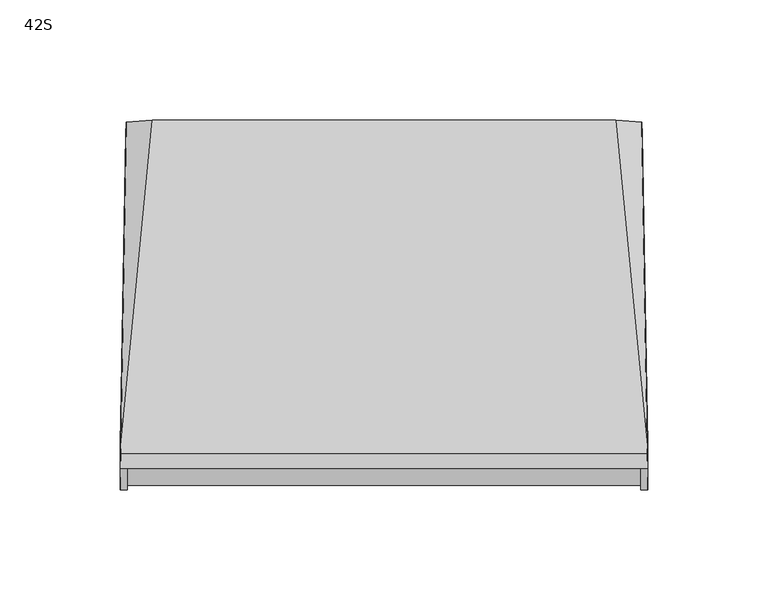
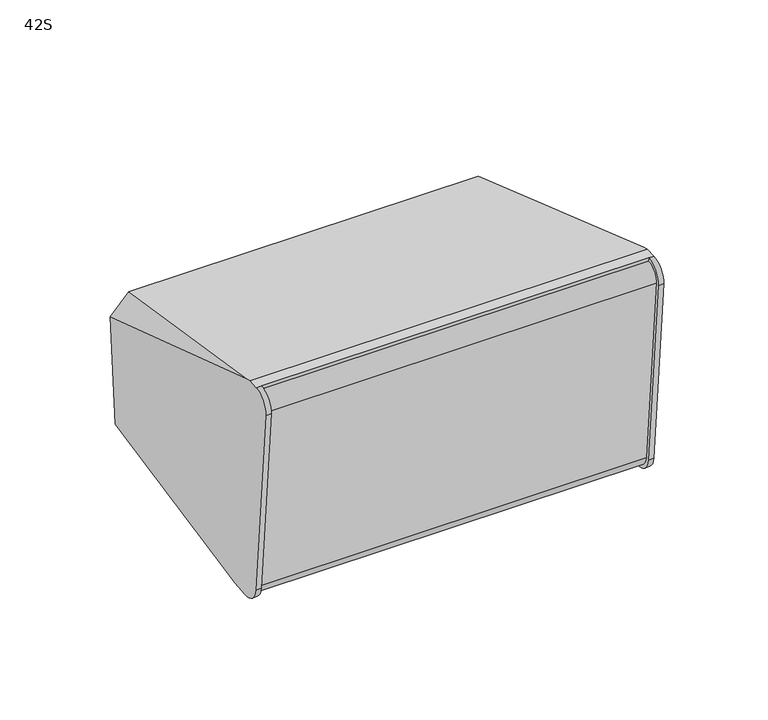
"""IFC4 building model written with IfcOpenShell, lengths in millimetres: proxy geometry, d&b xS-Series 42S Point Source : 42S."""

from ifc_helpers import new_model, si_unit, point, frame, frame_2d, origin, place, context, project, spatial, polyline, circle_curve, ellipse_curve, trimmed, segment, composite_curve, outline, extrude, source, transform, mapped, element, save
from ifc_brep_helpers import plane_surface, cylinder_surface, revolved_surface, advanced_brep


def proxy_42s_0d4dba5b(model_context):
    return source(origin(), model_context, "Body", "SolidModel", [
        advanced_brep(
        [(-107.0, -60.1708825, -69.5087397), (107.0, -60.1708825, -69.5087397), (107.0, -60.3414006, -67.5597089), (-107.0, -60.3414006, -67.5597089), (107.0, -68.97039, -60.3191271), (-107.0, -68.97039, -60.3191271), (107.0, -78.3900458, 47.3480309), (-107.0, -78.3900458, 47.3480309), (107.0, -71.1177341, 56.0148344), (-107.0, -71.1177341, 56.0148344), (107.0, -71.2920456, 58.0072238), (-107.0, -71.2920456, 58.0072238), (109.8273531, -71.2920456, 58.0072238), (109.7253263, -65.3844214, 58.524074), (-109.7253263, -65.3844214, 58.524074), (-109.8273531, -71.2920456, 58.0072238), (-109.8279536, -60.1708825, -69.5087397), (-109.6679034, -50.9035477, -68.697953), (-97.8946622, 66.9696957, -58.3853804), (97.8946622, 66.9696957, -58.3853804), (109.6679034, -50.9035477, -68.697953), (109.8279536, -60.1708825, -69.5087397), (96.5142171, 73.9330723, 21.2063779), (-96.5142171, 73.9330723, 21.2063779), (-109.6679034, -61.9536331, 57.6051002), (109.6679034, -61.9536331, 57.6051002), (-107.602215, 67.8441588, -48.3902218), (107.602215, 67.8441588, -48.3902218), (107.4240938, 73.0404758, 11.003953), (-107.4240938, 73.0404758, 11.003953), (-109.9986507, -70.9194208, -60.4896452), (-109.9993995, -80.3824352, 47.1737194), (109.9993995, -80.3824352, 47.1737194), (109.9993995, -70.9627794, -60.4934386), (-107.0, -80.3824352, 47.1737194), (-107.0, -70.9627794, -60.4934386), (-95.447753, 68.6358128, -39.3415759), (-82.947753, 67.546366, -51.7940096), (-67.052247, 67.546366, -51.7940096), (-54.552247, 68.6358128, -39.3415759), (-54.552247, 72.2602275, 2.0856741), (-67.052247, 73.3496743, 14.5381078), (-82.947753, 73.3496743, 14.5381078), (-95.447753, 72.2602275, 2.0856741), (52.1, 68.6358128, -39.3415759), (64.6, 67.546366, -51.7940096), (82.4, 67.546366, -51.7940096), (94.9, 68.6358128, -39.3415759), (94.9, 72.2602275, 2.0856741), (82.4, 73.3496743, 14.5381078), (64.6, 73.3496743, 14.5381078), (52.1, 72.2602275, 2.0856741), (-95.447753, 63.6548393, -38.9057972), (-95.447753, 67.279254, 2.5214528), (-82.947753, 68.3687008, 14.9738865), (-67.052247, 68.3687008, 14.9738865), (-54.552247, 67.279254, 2.5214528), (-54.552247, 63.6548393, -38.9057972), (-67.052247, 62.5653925, -51.3582309), (-82.947753, 62.5653925, -51.3582309), (52.1, 63.6548393, -38.9057972), (52.1, 67.279254, 2.5214528), (64.6, 68.3687008, 14.9738865), (82.4, 68.3687008, 14.9738865), (94.9, 67.279254, 2.5214528), (94.9, 63.6548393, -38.9057972), (82.4, 62.5653925, -51.3582309), (64.6, 62.5653925, -51.3582309), (107.0, -70.9194208, -60.4896452), (107.0, -80.3824352, 47.1737194)],
        [
            (0, 1),
            (1, 2),
            (2, 3),
            (3, 0),
            (2, 4, circle_curve(frame((107.0, -61.0356044, -59.6249233), z_axis=(-1.0, 0.0, 0.0), x_axis=(0.0, 0.08715574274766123, -0.9961946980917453)), 7.9650952)),
            (4, 5),
            (5, 3, circle_curve(frame((-107.0, -61.0356044, -59.6249233), z_axis=(1.0, 0.0, 0.0), x_axis=(0.0, 0.08715574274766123, -0.9961946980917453)), 7.9650952)),
            (4, 6),
            (6, 7),
            (7, 5),
            (6, 8, circle_curve(frame((107.0, -70.4204882, 48.0452768), z_axis=(-1.0, 0.0, 0.0), x_axis=(0.0, 0.08715574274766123, -0.9961946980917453)), 8.0)),
            (8, 9),
            (9, 7, circle_curve(frame((-107.0, -70.4204882, 48.0452768), z_axis=(1.0, 0.0, 0.0), x_axis=(0.0, 0.08715574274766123, -0.9961946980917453)), 8.0)),
            (8, 10),
            (10, 11),
            (11, 9),
            (10, 12),
            (12, 13),
            (13, 14),
            (14, 15),
            (15, 11),
            (0, 16),
            (16, 17),
            (17, 18),
            (18, 19),
            (19, 20),
            (20, 21),
            (21, 1),
            (22, 23),
            (23, 24),
            (24, 14),
            (13, 25),
            (25, 22),
            (26, 18),
            (17, 26),
            (19, 27),
            (27, 20),
            (28, 22),
            (25, 28),
            (23, 29),
            (29, 24),
            (29, 26),
            (16, 30, ellipse_curve(frame((-109.8279536, -61.0356044, -59.6249233), z_axis=(-0.999852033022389, 0.017136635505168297, 0.0014992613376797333), x_axis=(-0.017202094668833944, -0.9960472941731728, -0.08714284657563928)), 9.9230392, 9.921571)),
            (30, 31),
            (31, 15, ellipse_curve(frame((-109.8273531, -70.4204882, 48.0452768), z_axis=(-0.999852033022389, 0.017136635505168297, 0.0014992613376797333), x_axis=(-0.017202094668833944, -0.9960472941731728, -0.08714284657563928)), 10.0014799, 10.0)),
            (12, 32, ellipse_curve(frame((109.8273531, -70.4204882, 48.0452768), z_axis=(0.9998520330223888, 0.017136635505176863, 0.0014992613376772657), x_axis=(-0.017202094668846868, 0.9960472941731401, 0.08714284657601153)), 10.0014799, 10.0)),
            (32, 33),
            (33, 21, ellipse_curve(frame((109.8279536, -61.0356044, -59.6249233), z_axis=(0.9998520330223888, 0.017136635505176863, 0.0014992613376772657), x_axis=(-0.017202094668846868, 0.9960472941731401, 0.08714284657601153)), 9.9230392, 9.921571)),
            (27, 28),
            (11, 34, circle_curve(frame((-107.0, -70.4204882, 48.0452768), z_axis=(1.0, 0.0, 0.0), x_axis=(0.0, 0.08715574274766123, -0.9961946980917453)), 10.0)),
            (34, 35),
            (35, 0, circle_curve(frame((-107.0, -61.0356044, -59.6249233), z_axis=(1.0, 0.0, 0.0), x_axis=(0.0, 0.08715574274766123, -0.9961946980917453)), 9.921571)),
            (35, 30),
            (34, 31),
            (36, 37, circle_curve(frame((-82.947753, 68.6358128, -39.3415759), z_axis=(0.0, -0.9961946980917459, 0.08715574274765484), x_axis=(0.0, 0.08715574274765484, 0.9961946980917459)), 12.5)),
            (37, 38),
            (38, 39, circle_curve(frame((-67.052247, 68.6358128, -39.3415759), z_axis=(0.0, -0.9961946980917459, 0.08715574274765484), x_axis=(0.0, 0.08715574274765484, 0.9961946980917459)), 12.5)),
            (39, 40),
            (40, 41, circle_curve(frame((-67.052247, 72.2602275, 2.0856741), z_axis=(0.0, -0.9961946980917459, 0.08715574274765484), x_axis=(0.0, 0.08715574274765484, 0.9961946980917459)), 12.5)),
            (41, 42),
            (42, 43, circle_curve(frame((-82.947753, 72.2602275, 2.0856741), z_axis=(0.0, -0.9961946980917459, 0.08715574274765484), x_axis=(0.0, 0.08715574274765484, 0.9961946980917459)), 12.5)),
            (43, 36),
            (44, 45, circle_curve(frame((64.6, 68.6358128, -39.3415759), z_axis=(0.0, -0.9961946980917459, 0.08715574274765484), x_axis=(0.0, 0.08715574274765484, 0.9961946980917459)), 12.5)),
            (45, 46),
            (46, 47, circle_curve(frame((82.4, 68.6358128, -39.3415759), z_axis=(0.0, -0.9961946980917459, 0.08715574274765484), x_axis=(0.0, 0.08715574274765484, 0.9961946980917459)), 12.5)),
            (47, 48),
            (48, 49, circle_curve(frame((82.4, 72.2602275, 2.0856741), z_axis=(0.0, -0.9961946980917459, 0.08715574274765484), x_axis=(0.0, 0.08715574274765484, 0.9961946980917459)), 12.5)),
            (49, 50),
            (50, 51, circle_curve(frame((64.6, 72.2602275, 2.0856741), z_axis=(0.0, -0.9961946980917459, 0.08715574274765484), x_axis=(0.0, 0.08715574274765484, 0.9961946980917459)), 12.5)),
            (51, 44),
            (52, 53),
            (53, 54, circle_curve(frame((-82.947753, 67.279254, 2.5214528), z_axis=(0.0, 0.9961946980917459, -0.08715574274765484), x_axis=(0.0, 0.08715574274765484, 0.9961946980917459)), 12.5)),
            (54, 55),
            (55, 56, circle_curve(frame((-67.052247, 67.279254, 2.5214528), z_axis=(0.0, 0.9961946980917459, -0.08715574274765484), x_axis=(0.0, 0.08715574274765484, 0.9961946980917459)), 12.5)),
            (56, 57),
            (57, 58, circle_curve(frame((-67.052247, 63.6548393, -38.9057972), z_axis=(0.0, 0.9961946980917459, -0.08715574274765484), x_axis=(0.0, 0.08715574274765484, 0.9961946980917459)), 12.5)),
            (58, 59),
            (59, 52, circle_curve(frame((-82.947753, 63.6548393, -38.9057972), z_axis=(0.0, 0.9961946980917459, -0.08715574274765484), x_axis=(0.0, 0.08715574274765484, 0.9961946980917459)), 12.5)),
            (60, 61),
            (61, 62, circle_curve(frame((64.6, 67.279254, 2.5214528), z_axis=(0.0, 0.9961946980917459, -0.08715574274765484), x_axis=(0.0, 0.08715574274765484, 0.9961946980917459)), 12.5)),
            (62, 63),
            (63, 64, circle_curve(frame((82.4, 67.279254, 2.5214528), z_axis=(0.0, 0.9961946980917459, -0.08715574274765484), x_axis=(0.0, 0.08715574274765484, 0.9961946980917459)), 12.5)),
            (64, 65),
            (65, 66, circle_curve(frame((82.4, 63.6548393, -38.9057972), z_axis=(0.0, 0.9961946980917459, -0.08715574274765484), x_axis=(0.0, 0.08715574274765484, 0.9961946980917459)), 12.5)),
            (66, 67),
            (67, 60, circle_curve(frame((64.6, 63.6548393, -38.9057972), z_axis=(0.0, 0.9961946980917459, -0.08715574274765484), x_axis=(0.0, 0.08715574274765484, 0.9961946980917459)), 12.5)),
            (1, 68, circle_curve(frame((107.0, -61.0356044, -59.6249233), z_axis=(-1.0, 0.0, 0.0), x_axis=(0.0, 0.08715574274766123, -0.9961946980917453)), 9.921571)),
            (68, 69),
            (69, 10, circle_curve(frame((107.0, -70.4204882, 48.0452768), z_axis=(-1.0, 0.0, 0.0), x_axis=(0.0, 0.08715574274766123, -0.9961946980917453)), 10.0)),
            (33, 68),
            (32, 69),
            (59, 37),
            (36, 52),
            (58, 38),
            (57, 39),
            (56, 40),
            (55, 41),
            (54, 42),
            (53, 43),
            (67, 45),
            (44, 60),
            (66, 46),
            (65, 47),
            (64, 48),
            (63, 49),
            (62, 50),
            (61, 51),
        ],
        [
            plane_surface(frame((-107.0, -60.1708825, -69.5087397), z_axis=(0.0, -0.9961946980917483, -0.08715574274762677), x_axis=(1.0, 0.0, 0.0))),
            cylinder_surface(frame((107.0, -61.0356044, -59.6249233), z_axis=(-1.0, 0.0, 0.0), x_axis=(0.0, 0.08715574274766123, -0.9961946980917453)), 7.9650952),
            plane_surface(frame((-107.0, -68.97039, -60.3191271), z_axis=(0.0, -0.996194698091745, -0.08715574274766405), x_axis=(1.0, 0.0, 0.0))),
            cylinder_surface(frame((107.0, -70.4204882, 48.0452768), z_axis=(-1.0, 0.0, 0.0), x_axis=(0.0, 0.08715574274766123, -0.9961946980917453)), 8.0),
            plane_surface(frame((-107.0, -71.1177341, 56.0148344), z_axis=(0.0, -0.9961946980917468, -0.08715574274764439), x_axis=(1.0, 0.0, 0.0))),
            plane_surface(frame((-107.0, -71.2920456, 58.0072238), z_axis=(0.0, -0.08715574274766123, 0.9961946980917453), x_axis=(1.0, 0.0, 0.0))),
            plane_surface(frame((-107.0, -54.2284863, -68.9888474), z_axis=(0.0, 0.08715574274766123, -0.9961946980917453), x_axis=(1.0, 0.0, 0.0))),
            plane_surface(frame((0.0, 74.4470346, 21.0687075), z_axis=(0.0, 0.2587393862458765, 0.965947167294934), x_axis=(-1.0, 0.0, 0.0))),
            plane_surface(frame((-103.232233, 80.6989148, -50.3906107), z_axis=(-0.7053631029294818, 0.13139331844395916, -0.6965620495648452), x_axis=(0.7071067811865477, 0.06162841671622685, -0.704416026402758))),
            plane_surface(frame((103.232233, 80.6989148, -50.3906107), z_axis=(0.7053631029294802, 0.1313933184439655, -0.6965620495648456), x_axis=(0.7071067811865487, -0.06162841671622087, 0.7044160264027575))),
            plane_surface(frame((103.232233, 75.0368843, 14.326694), z_axis=(0.6719558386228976, 0.2516194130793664, 0.6965364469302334), x_axis=(-0.7071067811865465, -0.061628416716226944, 0.7044160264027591))),
            plane_surface(frame((-103.232233, 75.0368843, 14.326694), z_axis=(-0.6719558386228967, 0.2516194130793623, 0.6965364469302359), x_axis=(-0.7071067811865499, 0.06162841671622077, -0.7044160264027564))),
            plane_surface(frame((-110.3665166, -105.6486643, 91.1389233), z_axis=(-0.999852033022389, 0.017136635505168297, 0.0014992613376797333), x_axis=(0.0, 0.08715574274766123, -0.9961946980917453))),
            plane_surface(frame((107.2474477, 74.9537717, 106.9395891), z_axis=(0.9998520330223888, 0.017136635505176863, 0.0014992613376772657), x_axis=(0.0, 0.08715574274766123, -0.9961946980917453))),
            plane_surface(frame((-107.0, -60.1708825, -69.5087397), z_axis=(1.0000000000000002, 0.0, 0.0), x_axis=(0.0, 0.9961946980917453, 0.08715574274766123))),
            cylinder_surface(frame((-107.0, -61.0356044, -59.6249233), z_axis=(-1.0, 0.0, 0.0), x_axis=(0.0, 0.08715574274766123, -0.9961946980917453)), 9.921571),
            plane_surface(frame((-112.6426388, -70.9627794, -60.4934386), z_axis=(0.0, -0.996194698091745, -0.08715574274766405), x_axis=(1.0, 0.0, 0.0))),
            cylinder_surface(frame((-107.0, -70.4204882, 48.0452768), z_axis=(-1.0, 0.0, 0.0), x_axis=(0.0, 0.08715574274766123, -0.9961946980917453)), 10.0),
            plane_surface(frame((-250.0, 65.4423104, -75.8434744), z_axis=(0.0, 0.9961946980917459, -0.08715574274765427), x_axis=(1.0, 0.0, 0.0))),
            plane_surface(frame((-82.947753, 64.7442861, -26.4533634), z_axis=(0.0, 0.9961946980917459, -0.08715574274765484), x_axis=(-1.0, 0.0, 0.0))),
            plane_surface(frame((107.0, -60.1708825, -69.5087397), z_axis=(-1.0000000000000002, 0.0, 0.0), x_axis=(0.0, -0.9961946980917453, -0.08715574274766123))),
            cylinder_surface(frame((113.0, -61.0356044, -59.6249233), z_axis=(-1.0, 0.0, 0.0), x_axis=(0.0, 0.08715574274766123, -0.9961946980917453)), 9.921571),
            plane_surface(frame((107.0, -70.9627794, -60.4934386), z_axis=(0.0, -0.996194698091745, -0.08715574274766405), x_axis=(1.0, 0.0, 0.0))),
            cylinder_surface(frame((113.0, -70.4204882, 48.0452768), z_axis=(-1.0, 0.0, 0.0), x_axis=(0.0, 0.08715574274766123, -0.9961946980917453)), 10.0),
            revolved_surface(polyline([(-82.947753, 64.74428606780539, -26.453363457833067), (-82.947753, 69.72525958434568, -26.88914217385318)]), (-82.947753, 68.6358128, -39.3415759), (0.0, -0.9961946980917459, 0.08715574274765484)),
            plane_surface(frame((-82.947753, 62.5653925, -51.3582309), z_axis=(0.0, 0.08715574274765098, 0.9961946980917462), x_axis=(0.0, 0.9961946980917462, -0.08715574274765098))),
            revolved_surface(polyline([(-67.052247, 64.74428606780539, -26.453363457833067), (-67.052247, 69.72525958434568, -26.88914217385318)]), (-67.052247, 68.6358128, -39.3415759), (0.0, -0.9961946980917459, 0.08715574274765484)),
            plane_surface(frame((-54.552247, 63.6548393, -38.9057972), z_axis=(-1.0000000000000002, 0.0, 0.0), x_axis=(0.0, 0.9961946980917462, -0.08715574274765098))),
            revolved_surface(polyline([(-67.052247, 68.36870078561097, 14.973886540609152), (-67.052247, 73.34967430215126, 14.538107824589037)]), (-67.052247, 72.2602275, 2.0856741), (0.0, -0.9961946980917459, 0.08715574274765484)),
            plane_surface(frame((-67.052247, 68.3687008, 14.9738865), z_axis=(0.0, -0.08715574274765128, -0.9961946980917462), x_axis=(0.0, 0.9961946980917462, -0.08715574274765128))),
            revolved_surface(polyline([(-82.947753, 68.36870078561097, 14.973886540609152), (-82.947753, 73.34967430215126, 14.538107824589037)]), (-82.947753, 72.2602275, 2.0856741), (0.0, -0.9961946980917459, 0.08715574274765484)),
            plane_surface(frame((-95.447753, 67.279254, 2.5214528), z_axis=(1.0000000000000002, 0.0, 0.0), x_axis=(0.0, 0.9961946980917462, -0.08715574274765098))),
            revolved_surface(polyline([(64.6, 64.74428606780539, -26.453363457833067), (64.6, 69.72525958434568, -26.88914217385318)]), (64.6, 68.6358128, -39.3415759), (0.0, -0.9961946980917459, 0.08715574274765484)),
            plane_surface(frame((64.6, 62.5653925, -51.3582309), z_axis=(0.0, 0.08715574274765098, 0.9961946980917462), x_axis=(0.0, 0.9961946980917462, -0.08715574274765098))),
            revolved_surface(polyline([(82.4, 64.74428606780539, -26.453363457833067), (82.4, 69.72525958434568, -26.88914217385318)]), (82.4, 68.6358128, -39.3415759), (0.0, -0.9961946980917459, 0.08715574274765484)),
            plane_surface(frame((94.9, 63.6548393, -38.9057972), z_axis=(-1.0000000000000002, 0.0, 0.0), x_axis=(0.0, 0.9961946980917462, -0.08715574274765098))),
            revolved_surface(polyline([(82.4, 68.36870078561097, 14.973886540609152), (82.4, 73.34967430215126, 14.538107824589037)]), (82.4, 72.2602275, 2.0856741), (0.0, -0.9961946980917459, 0.08715574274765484)),
            plane_surface(frame((82.4, 68.3687008, 14.9738865), z_axis=(0.0, -0.08715574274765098, -0.9961946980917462), x_axis=(0.0, 0.9961946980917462, -0.08715574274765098))),
            revolved_surface(polyline([(64.6, 68.36870078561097, 14.973886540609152), (64.6, 73.34967430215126, 14.538107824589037)]), (64.6, 72.2602275, 2.0856741), (0.0, -0.9961946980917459, 0.08715574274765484)),
            plane_surface(frame((52.1, 67.279254, 2.5214528), z_axis=(1.0000000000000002, 0.0, 0.0), x_axis=(0.0, 0.9961946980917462, -0.08715574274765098))),
        ],
        [
            (0, [[1, 2, 3, 4]]),
            (1, [[-3, 5, 6, 7]]),
            (2, [[-6, 8, 9, 10]]),
            (3, [[-9, 11, 12, 13]]),
            (4, [[-12, 14, 15, 16]]),
            (5, [[-15, 17, 18, 19, 20, 21]]),
            (6, [[-1, 22, 23, 24, 25, 26, 27, 28]]),
            (7, [[29, 30, 31, -19, 32, 33]]),
            (8, [[34, -24, 35]]),
            (9, [[-26, 36, 37]]),
            (10, [[38, -33, 39]]),
            (11, [[-30, 40, 41]]),
            (12, [[-20, -31, -41, 42, -35, -23, 43, 44, 45]]),
            (13, [[-18, 46, 47, 48, -27, -37, 49, -39, -32]]),
            (14, [[50, 51, 52, -4, -7, -10, -13, -16]]),
            (15, [[-52, 53, -43, -22]]),
            (16, [[-51, 54, -44, -53]]),
            (17, [[-50, -21, -45, -54]]),
            (18, [[-25, -34, -42, -40, -29, -38, -49, -36], [55, 56, 57, 58, 59, 60, 61, 62], [63, 64, 65, 66, 67, 68, 69, 70]]),
            (19, [[71, 72, 73, 74, 75, 76, 77, 78]]),
            (19, [[79, 80, 81, 82, 83, 84, 85, 86]]),
            (20, [[87, 88, 89, -14, -11, -8, -5, -2]]),
            (21, [[-87, -28, -48, 90]]),
            (22, [[-88, -90, -47, 91]]),
            (23, [[-89, -91, -46, -17]]),
            (24, [[-78, 92, -55, 93]]),
            (25, [[-77, 94, -56, -92]]),
            (26, [[-76, 95, -57, -94]]),
            (27, [[-75, 96, -58, -95]]),
            (28, [[-74, 97, -59, -96]]),
            (29, [[-73, 98, -60, -97]]),
            (30, [[-72, 99, -61, -98]]),
            (31, [[-71, -93, -62, -99]]),
            (32, [[-86, 100, -63, 101]]),
            (33, [[-85, 102, -64, -100]]),
            (34, [[-84, 103, -65, -102]]),
            (35, [[-83, 104, -66, -103]]),
            (36, [[-82, 105, -67, -104]]),
            (37, [[-81, 106, -68, -105]]),
            (38, [[-80, 107, -69, -106]]),
            (39, [[-79, -101, -70, -107]]),
        ],
    ),
        extrude(outline(composite_curve([segment(trimmed(circle_curve(frame_2d((0.0, -12.0)), 12.0), [point((0.0, -24.0000001))], [point((0.0, 0.0))], False, "CARTESIAN"), True, "CONTINUOUS"), segment(trimmed(circle_curve(frame_2d((0.0, -12.0)), 12.0), [point((0.0, 0.0))], [point((0.0, -24.0000001))], False, "CARTESIAN"), True, "CONTINUOUS")], self_intersect=False)), frame((74.8471384, 68.0983887, -45.4843605), z_axis=(0.0, -0.9961946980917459, 0.08715574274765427), x_axis=(-1.0, 0.0, 0.0)), (0.0, 0.0, 1.0), 5.0),
        extrude(outline(composite_curve([segment(trimmed(circle_curve(frame_2d((0.0, -42.0000001)), 12.0), [point((0.0, -54.0))], [point((0.0, -30.0000001))], False, "CARTESIAN"), True, "CONTINUOUS"), segment(trimmed(circle_curve(frame_2d((0.0, -42.0000001)), 12.0), [point((0.0, -30.0000001))], [point((0.0, -54.0))], False, "CARTESIAN"), True, "CONTINUOUS")], self_intersect=False)), frame((74.8471384, 68.0983887, -45.4843605), z_axis=(0.0, -0.9961946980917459, 0.08715574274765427), x_axis=(-1.0, 0.0, 0.0)), (0.0, 0.0, 1.0), 5.0),
    ])


if __name__ == "__main__":
    model = new_model("IFC4")
    model_context = context("Model", 3, world=origin())
    ifc_project = project(units=[si_unit("LENGTHUNIT", "METRE", prefix="MILLI")], contexts=[model_context])
    site = spatial("IfcSite", under=ifc_project)
    building = spatial("IfcBuilding", under=site)
    placement = place(None, origin())
    proxy_42s_shape = proxy_42s_0d4dba5b(model_context)
    element("IfcBuildingElementProxy", 1, Name="d&b xS-Series 42S Point Source : 42S", ObjectType="d&b xS-Series 42S Point Source : 42S", at=placement, inside=building, context=model_context, shape_type="MappedRepresentation", body=[
        mapped(proxy_42s_shape, transform((0.0, 0.0, 0.0), x_axis=(1.0, 0.0, 0.0), y_axis=(0.0, 1.0, 0.0), z_axis=(0.0, 0.0, 1.0))),
    ])
    save(model, "model.ifc")
